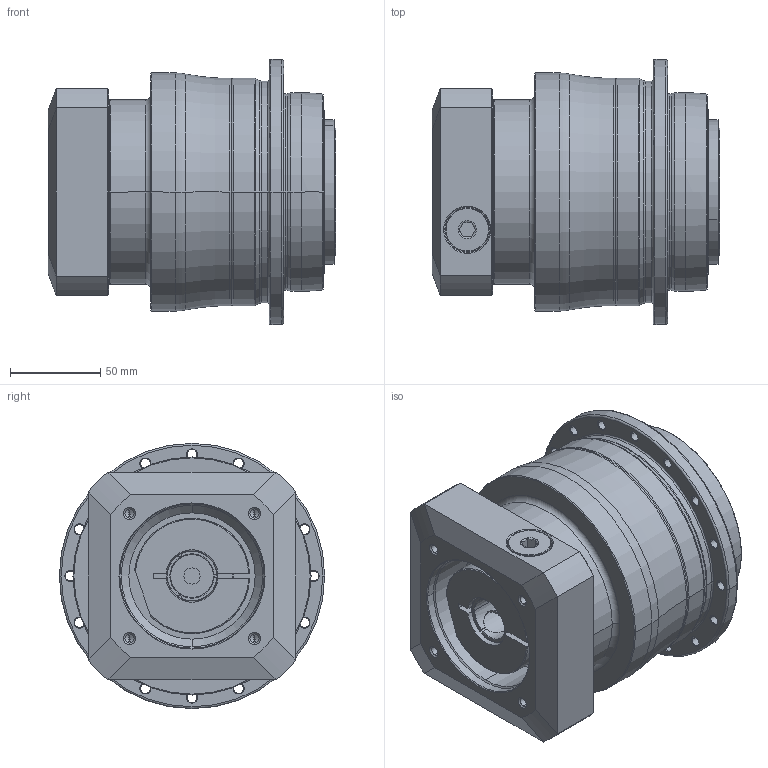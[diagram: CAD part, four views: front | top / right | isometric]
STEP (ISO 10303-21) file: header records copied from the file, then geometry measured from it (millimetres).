
FILE_DESCRIPTION((''),'2;1');
FILE_NAME('AH110_2ST_24-P0409500101_ASM','2016-08-05T',('d01943'),(''),'PRO/ENGINEER BY PARAMETRIC TECHNOLOGY CORPORATION, 2008410','PRO/ENGINEER BY PARAMETRIC TECHNOLOGY CORPORATION, 2008410','');
FILE_SCHEMA(('CONFIG_CONTROL_DESIGN'));
Length unit declared in the file: millimetre
Products named in the file (8): P0278400003; P0359400002; P1317400201; P0409500101; P0503500010; P0912303001; 21711418017; AH110_2ST_24-P0409500101_ASM
Assembly tree (7 placements, depth 2):
  AH110_2ST_24-P0409500101_ASM
    P0278400003
    P0359400002
    P1317400201
    P0409500101
    P0503500010
    P0912303001
    21711418017
Bounding box: 159.5 x 147 x 147 mm (x, y, z)
Volume: 1588514.3 mm3; surface area: 223424 mm2
Topology: 8 solids, 8 shells, 596 faces, 1359 edges, 794 vertices
Faces by surface type: cylinder 230, cone 194, plane 98, torus 60, bspline 14
Entity records: 21385 total; most frequent: CARTESIAN_POINT 7713, DIRECTION 3087, ORIENTED_EDGE 2610, EDGE_CURVE 1305, AXIS2_PLACEMENT_3D 1296, VERTEX_POINT 794, EDGE_LOOP 713, CIRCLE 699
